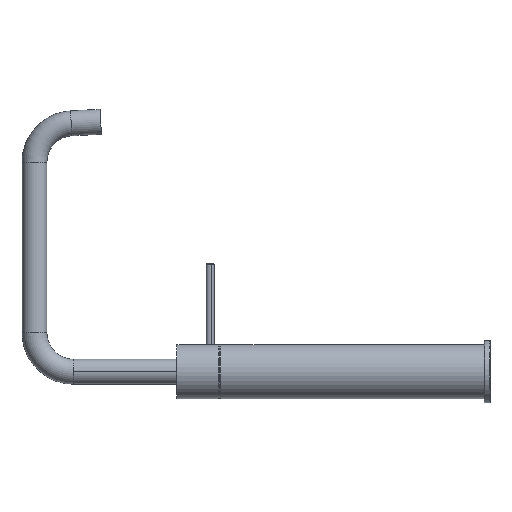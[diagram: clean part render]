
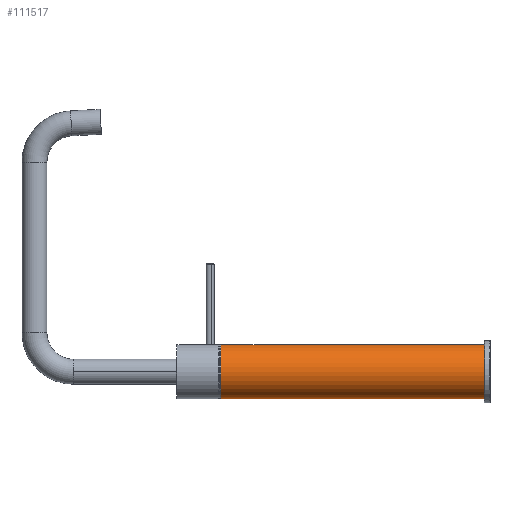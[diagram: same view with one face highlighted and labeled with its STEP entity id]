
A CAD part, left-side view. The second image highlights one B-rep face of the part: STEP entity #111517.
In plain terms, the highlighted cylindrical face has radius 21.5 mm (diameter 43 mm), a partial arc.
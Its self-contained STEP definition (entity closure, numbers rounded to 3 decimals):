
#2333 = CIRCLE ( 'NONE', #125239, 21.5 ) ;
#5362 = CARTESIAN_POINT ( 'NONE',  ( 0., 210.8, -21.5 ) ) ;
#6319 = EDGE_CURVE ( 'NONE', #99327, #47882, #2333, .T. ) ;
#10931 = LINE ( 'NONE', #80815, #94711 ) ;
#13824 = DIRECTION ( 'NONE',  ( 0., 0., 1. ) ) ;
#15336 = EDGE_CURVE ( 'NONE', #127673, #19855, #65370, .T. ) ;
#15739 = VECTOR ( 'NONE', #98251, 1000. ) ;
#17686 = EDGE_CURVE ( 'NONE', #19855, #47882, #10931, .T. ) ;
#19855 = VERTEX_POINT ( 'NONE', #117100 ) ;
#23984 = DIRECTION ( 'NONE',  ( 0., 0., 1. ) ) ;
#26669 = ORIENTED_EDGE ( 'NONE', *, *, #6319, .F. ) ;
#26797 = CARTESIAN_POINT ( 'NONE',  ( 0., 210.8, 21.5 ) ) ;
#37708 = CARTESIAN_POINT ( 'NONE',  ( 0., 82.995, 0. ) ) ;
#43656 = CARTESIAN_POINT ( 'NONE',  ( 0., 0., 0. ) ) ;
#47204 = ORIENTED_EDGE ( 'NONE', *, *, #86855, .F. ) ;
#47882 = VERTEX_POINT ( 'NONE', #26797 ) ;
#58529 = CARTESIAN_POINT ( 'NONE',  ( 0., 82.995, -21.5 ) ) ;
#63478 = CARTESIAN_POINT ( 'NONE',  ( 0., 210.8, 0. ) ) ;
#65370 = CIRCLE ( 'NONE', #67230, 21.5 ) ;
#67230 = AXIS2_PLACEMENT_3D ( 'NONE', #43656, #113366, #23984 ) ;
#68907 = AXIS2_PLACEMENT_3D ( 'NONE', #37708, #77459, #117234 ) ;
#77459 = DIRECTION ( 'NONE',  ( 0., 1., 0. ) ) ;
#80815 = CARTESIAN_POINT ( 'NONE',  ( 0., 82.995, 21.5 ) ) ;
#85659 = ORIENTED_EDGE ( 'NONE', *, *, #15336, .T. ) ;
#86855 = EDGE_CURVE ( 'NONE', #127673, #99327, #117821, .T. ) ;
#87249 = FACE_OUTER_BOUND ( 'NONE', #111888, .T. ) ;
#88888 = ORIENTED_EDGE ( 'NONE', *, *, #17686, .T. ) ;
#94711 = VECTOR ( 'NONE', #120569, 1000. ) ;
#98251 = DIRECTION ( 'NONE',  ( 0., 1., 0. ) ) ;
#99327 = VERTEX_POINT ( 'NONE', #5362 ) ;
#103255 = DIRECTION ( 'NONE',  ( 0., 1., 0. ) ) ;
#111517 = ADVANCED_FACE ( 'NONE', ( #87249 ), #127049, .T. ) ;
#111888 = EDGE_LOOP ( 'NONE', ( #47204, #85659, #88888, #26669 ) ) ;
#113366 = DIRECTION ( 'NONE',  ( 0., 1., 0. ) ) ;
#115038 = CARTESIAN_POINT ( 'NONE',  ( 0., 0., -21.5 ) ) ;
#117100 = CARTESIAN_POINT ( 'NONE',  ( 0., 0., 21.5 ) ) ;
#117234 = DIRECTION ( 'NONE',  ( 0., 0., 1. ) ) ;
#117821 = LINE ( 'NONE', #58529, #15739 ) ;
#120569 = DIRECTION ( 'NONE',  ( 0., 1., 0. ) ) ;
#125239 = AXIS2_PLACEMENT_3D ( 'NONE', #63478, #103255, #13824 ) ;
#127049 = CYLINDRICAL_SURFACE ( 'NONE', #68907, 21.5 ) ;
#127673 = VERTEX_POINT ( 'NONE', #115038 ) ;
